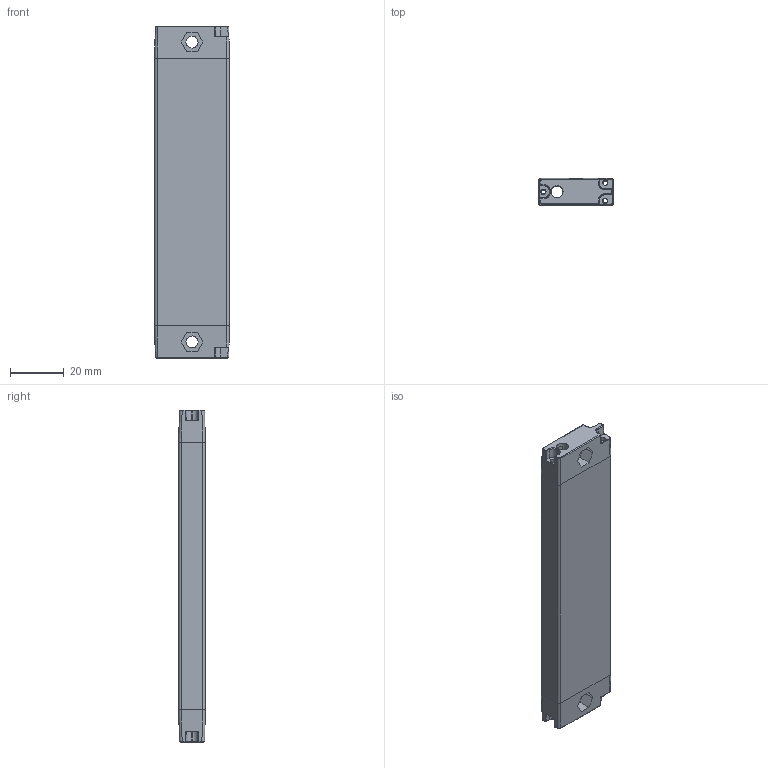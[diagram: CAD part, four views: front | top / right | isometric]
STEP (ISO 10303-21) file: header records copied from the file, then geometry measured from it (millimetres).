
FILE_DESCRIPTION(/* description */ (''),/* implementation_level */ '2;1');
FILE_NAME(/* name */ '003M.stp',/* time_stamp */ '2024-03-05T14:31:31+08:00',/* author */ (''),/* organization */ (''),/* preprocessor_version */ 'ST-DEVELOPER v11',/* originating_system */ 'SIEMENS PLM Software NX 7.0',/* authorisation */ '');
FILE_SCHEMA (('AUTOMOTIVE_DESIGN { 1 0 10303 214 1 1 1 1 }'));
Length unit declared in the file: millimetre
Products named in the file (1): acer12C8uu6p
Bounding box: 28 x 10 x 124 mm (x, y, z)
Volume: 12048.1 mm3; surface area: 20745.3 mm2
Topology: 3 solids, 3 shells, 352 faces, 984 edges, 628 vertices
Faces by surface type: cylinder 166, plane 158, bspline 16, sphere 12
Full cylindrical faces by diameter (mm): 2 x6, 4.5 x4
Entity records: 11431 total; most frequent: CARTESIAN_POINT 2255, DIRECTION 1973, ORIENTED_EDGE 1904, EDGE_CURVE 952, AXIS2_PLACEMENT_3D 700, VERTEX_POINT 618, LINE 573, VECTOR 573
